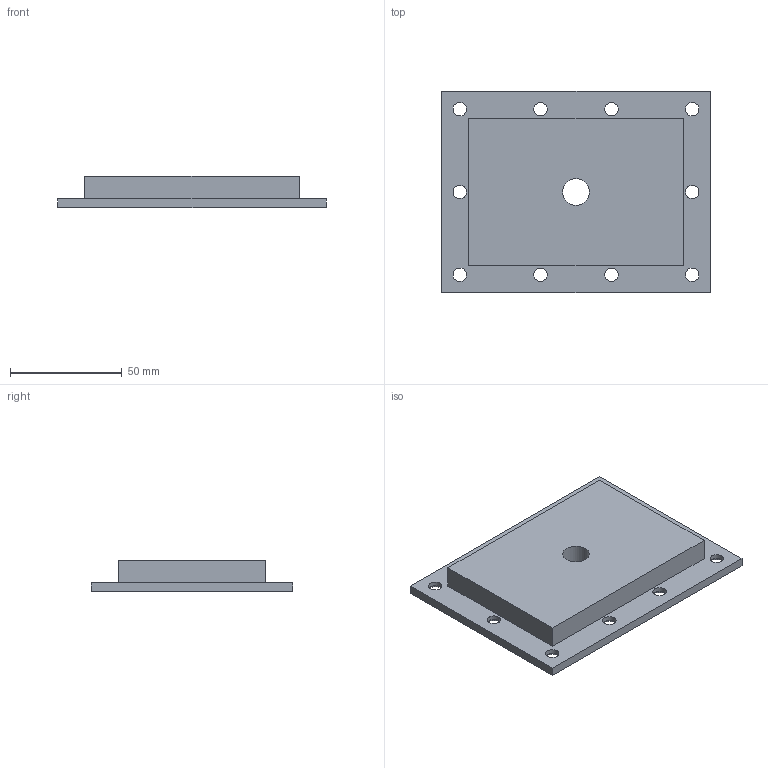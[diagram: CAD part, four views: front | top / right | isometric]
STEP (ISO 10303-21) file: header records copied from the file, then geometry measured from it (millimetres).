
FILE_DESCRIPTION(/* description */ (''),/* implementation_level */ '2;1');
FILE_NAME(/* name */ 'G:\YandexDisk\Работа\Inventor\Универ\ОАП\Лабораторные работы\ЛР6 Создание сборок\Редуктор\stp\Крышка 3.stp',/* time_stamp */ '2023-11-17T06:33:43+03:00',/* author */ ('34740'),/* organization */ (''),/* preprocessor_version */ 'ST-DEVELOPER v18.1',/* originating_system */ 'Autodesk Inventor 2022',/* authorisation */ '');
FILE_SCHEMA (('AUTOMOTIVE_DESIGN { 1 0 10303 214 3 1 1 }'));
Length unit declared in the file: millimetre
Products named in the file (1): Крышка 3
Bounding box: 120 x 90 x 14 mm (x, y, z)
Volume: 102840.4 mm3; surface area: 27261.4 mm2
Topology: 1 solids, 1 shells, 42 faces, 87 edges, 58 vertices
Faces by surface type: plane 21, cylinder 21
Full cylindrical faces by diameter (mm): 6 x10, 10 x10, 12 x1
Entity records: 1218 total; most frequent: DIRECTION 215, CARTESIAN_POINT 188, ORIENTED_EDGE 174, EDGE_CURVE 87, AXIS2_PLACEMENT_3D 85, EDGE_LOOP 75, VERTEX_POINT 58, LINE 45
